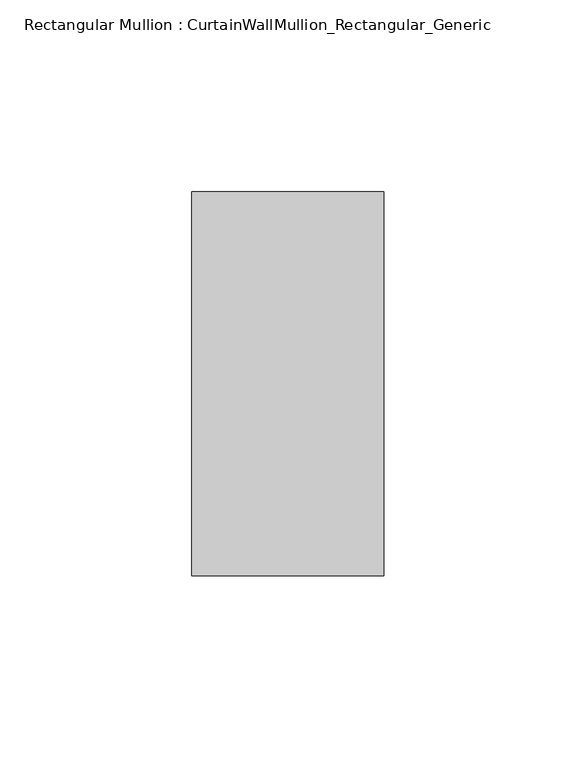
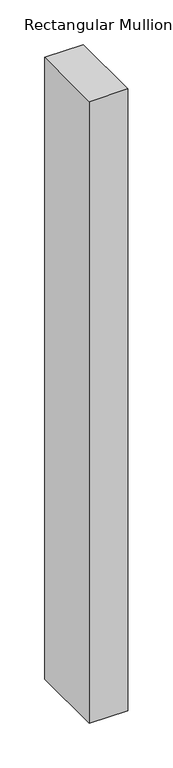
"""IFC4 building model written with IfcOpenShell, lengths in millimetres: member geometry, Rectangular Mullion : CurtainWallMullion_Rectangular_Generic."""

from ifc_helpers import new_model, si_unit, frame, origin, place, context, project, spatial, polyline, outline, extrude, source, transform, mapped, element, save


def rectangular_mullion_curtainwallmullion_rectangular_generic_63c9f2cf(model_context):
    return source(origin(), model_context, "Body", "SweptSolid", [
        extrude(outline(polyline([(25.0, 50.0), (25.0, -50.0), (-25.0, -50.0), (-25.0, 50.0), (25.0, 50.0)])), frame((0.0, 0.0, -850.0), z_axis=(0.0, 0.0, 1.0), x_axis=(1.0, 0.0, 0.0)), (0.0, 0.0, 1.0), 850.0),
    ])


if __name__ == "__main__":
    model = new_model("IFC4")
    model_context = context("Model", 3, world=origin())
    ifc_project = project(units=[si_unit("LENGTHUNIT", "METRE", prefix="MILLI")], contexts=[model_context])
    site = spatial("IfcSite", under=ifc_project)
    building = spatial("IfcBuilding", under=site)
    placement = place(None, origin())
    rectangular_mullion_curtainwallmullion_rectangular_generic_shape = rectangular_mullion_curtainwallmullion_rectangular_generic_63c9f2cf(model_context)
    element("IfcMember", 1, ObjectType="Rectangular Mullion : CurtainWallMullion_Rectangular_Generic", at=placement, inside=building, context=model_context, shape_type="MappedRepresentation", body=[
        mapped(rectangular_mullion_curtainwallmullion_rectangular_generic_shape, transform((0.0, 0.0, 0.0), x_axis=(1.0, 0.0, 0.0), y_axis=(0.0, 1.0, 0.0), z_axis=(0.0, 0.0, 1.0))),
    ])
    save(model, "model.ifc")
